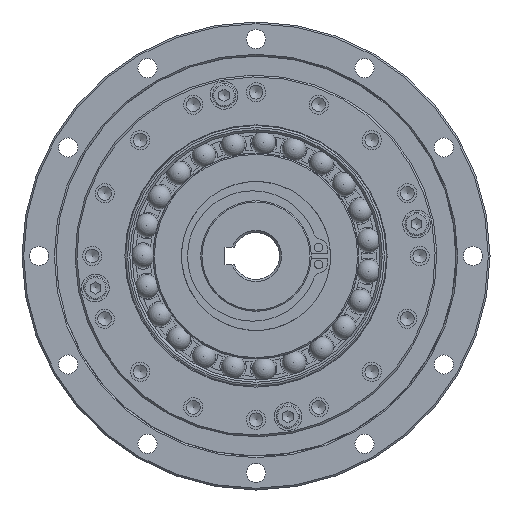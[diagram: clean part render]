
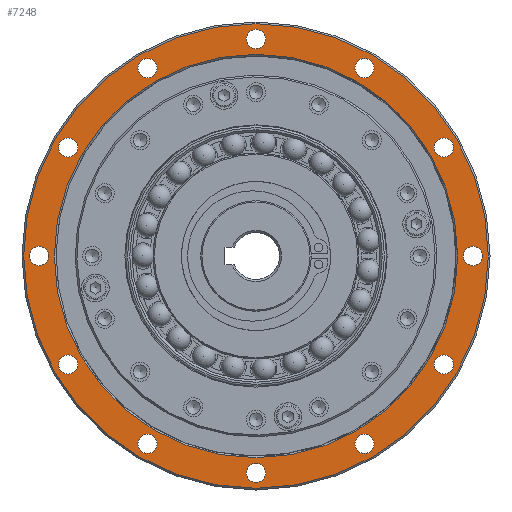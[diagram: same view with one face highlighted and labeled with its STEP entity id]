
A CAD part, left-side view. The second image highlights one B-rep face of the part: STEP entity #7248.
In plain terms, the highlighted planar face has unit normal (-1, 0, 0).
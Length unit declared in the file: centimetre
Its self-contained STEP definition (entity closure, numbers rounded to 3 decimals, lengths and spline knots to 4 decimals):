
#757=PLANE($,#8287);
#1018=FACE_BOUND($,#2100,.T.);
#1019=FACE_BOUND($,#2101,.T.);
#1020=FACE_BOUND($,#2102,.T.);
#1021=FACE_BOUND($,#2103,.T.);
#1022=FACE_BOUND($,#2104,.T.);
#1023=FACE_BOUND($,#2105,.T.);
#1024=FACE_BOUND($,#2106,.T.);
#1025=FACE_BOUND($,#2107,.T.);
#1026=FACE_BOUND($,#2108,.T.);
#1027=FACE_BOUND($,#2109,.T.);
#1028=FACE_BOUND($,#2110,.T.);
#1029=FACE_BOUND($,#2111,.T.);
#1030=FACE_BOUND($,#2112,.T.);
#1031=FACE_BOUND($,#2113,.T.);
#2100=EDGE_LOOP($,(#5923));
#2101=EDGE_LOOP($,(#5924));
#2102=EDGE_LOOP($,(#5925));
#2103=EDGE_LOOP($,(#5926));
#2104=EDGE_LOOP($,(#5927));
#2105=EDGE_LOOP($,(#5928));
#2106=EDGE_LOOP($,(#5929));
#2107=EDGE_LOOP($,(#5930));
#2108=EDGE_LOOP($,(#5931));
#2109=EDGE_LOOP($,(#5932));
#2110=EDGE_LOOP($,(#5933));
#2111=EDGE_LOOP($,(#5934));
#2112=EDGE_LOOP($,(#5935));
#2113=EDGE_LOOP($,(#5936));
#2871=CIRCLE($,#8286,5.46);
#2872=CIRCLE($,#8288,0.225);
#2873=CIRCLE($,#8289,0.225);
#2874=CIRCLE($,#8290,0.225);
#2875=CIRCLE($,#8291,0.225);
#2876=CIRCLE($,#8292,0.225);
#2877=CIRCLE($,#8293,0.225);
#2878=CIRCLE($,#8294,0.225);
#2879=CIRCLE($,#8295,0.225);
#2880=CIRCLE($,#8296,0.225);
#2881=CIRCLE($,#8297,0.225);
#2882=CIRCLE($,#8298,0.225);
#2883=CIRCLE($,#8299,0.225);
#2884=CIRCLE($,#8300,4.74);
#3453=VERTEX_POINT($,#12582);
#3454=VERTEX_POINT($,#12585);
#3455=VERTEX_POINT($,#12587);
#3456=VERTEX_POINT($,#12589);
#3457=VERTEX_POINT($,#12591);
#3458=VERTEX_POINT($,#12593);
#3459=VERTEX_POINT($,#12595);
#3460=VERTEX_POINT($,#12597);
#3461=VERTEX_POINT($,#12599);
#3462=VERTEX_POINT($,#12601);
#3463=VERTEX_POINT($,#12603);
#3464=VERTEX_POINT($,#12605);
#3465=VERTEX_POINT($,#12607);
#3466=VERTEX_POINT($,#12609);
#4299=EDGE_CURVE($,#3453,#3453,#2871,.T.);
#4300=EDGE_CURVE($,#3454,#3454,#2872,.T.);
#4301=EDGE_CURVE($,#3455,#3455,#2873,.T.);
#4302=EDGE_CURVE($,#3456,#3456,#2874,.T.);
#4303=EDGE_CURVE($,#3457,#3457,#2875,.T.);
#4304=EDGE_CURVE($,#3458,#3458,#2876,.T.);
#4305=EDGE_CURVE($,#3459,#3459,#2877,.T.);
#4306=EDGE_CURVE($,#3460,#3460,#2878,.T.);
#4307=EDGE_CURVE($,#3461,#3461,#2879,.T.);
#4308=EDGE_CURVE($,#3462,#3462,#2880,.T.);
#4309=EDGE_CURVE($,#3463,#3463,#2881,.T.);
#4310=EDGE_CURVE($,#3464,#3464,#2882,.T.);
#4311=EDGE_CURVE($,#3465,#3465,#2883,.T.);
#4312=EDGE_CURVE($,#3466,#3466,#2884,.T.);
#5923=ORIENTED_EDGE($,*,*,#4300,.T.);
#5924=ORIENTED_EDGE($,*,*,#4301,.T.);
#5925=ORIENTED_EDGE($,*,*,#4302,.T.);
#5926=ORIENTED_EDGE($,*,*,#4303,.T.);
#5927=ORIENTED_EDGE($,*,*,#4304,.T.);
#5928=ORIENTED_EDGE($,*,*,#4305,.T.);
#5929=ORIENTED_EDGE($,*,*,#4306,.T.);
#5930=ORIENTED_EDGE($,*,*,#4307,.T.);
#5931=ORIENTED_EDGE($,*,*,#4308,.T.);
#5932=ORIENTED_EDGE($,*,*,#4309,.T.);
#5933=ORIENTED_EDGE($,*,*,#4310,.T.);
#5934=ORIENTED_EDGE($,*,*,#4311,.T.);
#5935=ORIENTED_EDGE($,*,*,#4299,.F.);
#5936=ORIENTED_EDGE($,*,*,#4312,.F.);
#7248=ADVANCED_FACE($,(#1018,#1019,#1020,#1021,#1022,#1023,#1024,#1025,
#1026,#1027,#1028,#1029,#1030,#1031),#757,.T.);
#8286=AXIS2_PLACEMENT_3D($,#12583,#10431,#10432);
#8287=AXIS2_PLACEMENT_3D($,#12584,#10433,#10434);
#8288=AXIS2_PLACEMENT_3D($,#12586,#10435,#10436);
#8289=AXIS2_PLACEMENT_3D($,#12588,#10437,#10438);
#8290=AXIS2_PLACEMENT_3D($,#12590,#10439,#10440);
#8291=AXIS2_PLACEMENT_3D($,#12592,#10441,#10442);
#8292=AXIS2_PLACEMENT_3D($,#12594,#10443,#10444);
#8293=AXIS2_PLACEMENT_3D($,#12596,#10445,#10446);
#8294=AXIS2_PLACEMENT_3D($,#12598,#10447,#10448);
#8295=AXIS2_PLACEMENT_3D($,#12600,#10449,#10450);
#8296=AXIS2_PLACEMENT_3D($,#12602,#10451,#10452);
#8297=AXIS2_PLACEMENT_3D($,#12604,#10453,#10454);
#8298=AXIS2_PLACEMENT_3D($,#12606,#10455,#10456);
#8299=AXIS2_PLACEMENT_3D($,#12608,#10457,#10458);
#8300=AXIS2_PLACEMENT_3D($,#12610,#10459,#10460);
#10431=DIRECTION('center_axis',(1.,0.,0.));
#10432=DIRECTION('ref_axis',(0.,0.,-1.));
#10433=DIRECTION('center_axis',(-1.,0.,0.));
#10434=DIRECTION('ref_axis',(0.,0.,1.));
#10435=DIRECTION('center_axis',(1.,0.,0.));
#10436=DIRECTION('ref_axis',(0.,0.,-1.));
#10437=DIRECTION('center_axis',(1.,0.,0.));
#10438=DIRECTION('ref_axis',(0.,0.,-1.));
#10439=DIRECTION('center_axis',(1.,0.,0.));
#10440=DIRECTION('ref_axis',(0.,0.,-1.));
#10441=DIRECTION('center_axis',(1.,0.,0.));
#10442=DIRECTION('ref_axis',(0.,0.,-1.));
#10443=DIRECTION('center_axis',(1.,0.,0.));
#10444=DIRECTION('ref_axis',(0.,0.,-1.));
#10445=DIRECTION('center_axis',(1.,0.,0.));
#10446=DIRECTION('ref_axis',(0.,0.,-1.));
#10447=DIRECTION('center_axis',(1.,0.,0.));
#10448=DIRECTION('ref_axis',(0.,0.,-1.));
#10449=DIRECTION('center_axis',(1.,0.,0.));
#10450=DIRECTION('ref_axis',(0.,0.,-1.));
#10451=DIRECTION('center_axis',(1.,0.,0.));
#10452=DIRECTION('ref_axis',(0.,0.,-1.));
#10453=DIRECTION('center_axis',(1.,0.,0.));
#10454=DIRECTION('ref_axis',(0.,0.,-1.));
#10455=DIRECTION('center_axis',(1.,0.,0.));
#10456=DIRECTION('ref_axis',(0.,0.,-1.));
#10457=DIRECTION('center_axis',(1.,0.,0.));
#10458=DIRECTION('ref_axis',(0.,0.,-1.));
#10459=DIRECTION('center_axis',(-1.,0.,0.));
#10460=DIRECTION('ref_axis',(0.,0.,-1.));
#12582=CARTESIAN_POINT('',(-1.87,0.,5.46));
#12583=CARTESIAN_POINT('Origin',(-1.87,0.,0.));
#12584=CARTESIAN_POINT('Origin',(-1.87,0.,4.7));
#12585=CARTESIAN_POINT('',(-1.87,-4.4167,-2.325));
#12586=CARTESIAN_POINT('Origin',(-1.87,-4.4167,-2.55));
#12587=CARTESIAN_POINT('',(-1.87,-4.4167,2.775));
#12588=CARTESIAN_POINT('Origin',(-1.87,-4.4167,2.55));
#12589=CARTESIAN_POINT('',(-1.87,0.,5.325));
#12590=CARTESIAN_POINT('Origin',(-1.87,0.,5.1));
#12591=CARTESIAN_POINT('',(-1.87,4.4167,2.775));
#12592=CARTESIAN_POINT('Origin',(-1.87,4.4167,2.55));
#12593=CARTESIAN_POINT('',(-1.87,4.4167,-2.325));
#12594=CARTESIAN_POINT('Origin',(-1.87,4.4167,-2.55));
#12595=CARTESIAN_POINT('',(-1.87,0.,-4.875));
#12596=CARTESIAN_POINT('Origin',(-1.87,0.,-5.1));
#12597=CARTESIAN_POINT('',(-1.87,2.55,-4.1917));
#12598=CARTESIAN_POINT('Origin',(-1.87,2.55,-4.4167));
#12599=CARTESIAN_POINT('',(-1.87,5.1,0.225));
#12600=CARTESIAN_POINT('Origin',(-1.87,5.1,0.));
#12601=CARTESIAN_POINT('',(-1.87,2.55,4.6417));
#12602=CARTESIAN_POINT('Origin',(-1.87,2.55,4.4167));
#12603=CARTESIAN_POINT('',(-1.87,-2.55,4.6417));
#12604=CARTESIAN_POINT('Origin',(-1.87,-2.55,4.4167));
#12605=CARTESIAN_POINT('',(-1.87,-5.1,0.225));
#12606=CARTESIAN_POINT('Origin',(-1.87,-5.1,0.));
#12607=CARTESIAN_POINT('',(-1.87,-2.55,-4.1917));
#12608=CARTESIAN_POINT('Origin',(-1.87,-2.55,-4.4167));
#12609=CARTESIAN_POINT('',(-1.87,0.,4.74));
#12610=CARTESIAN_POINT('Origin',(-1.87,0.,0.));
